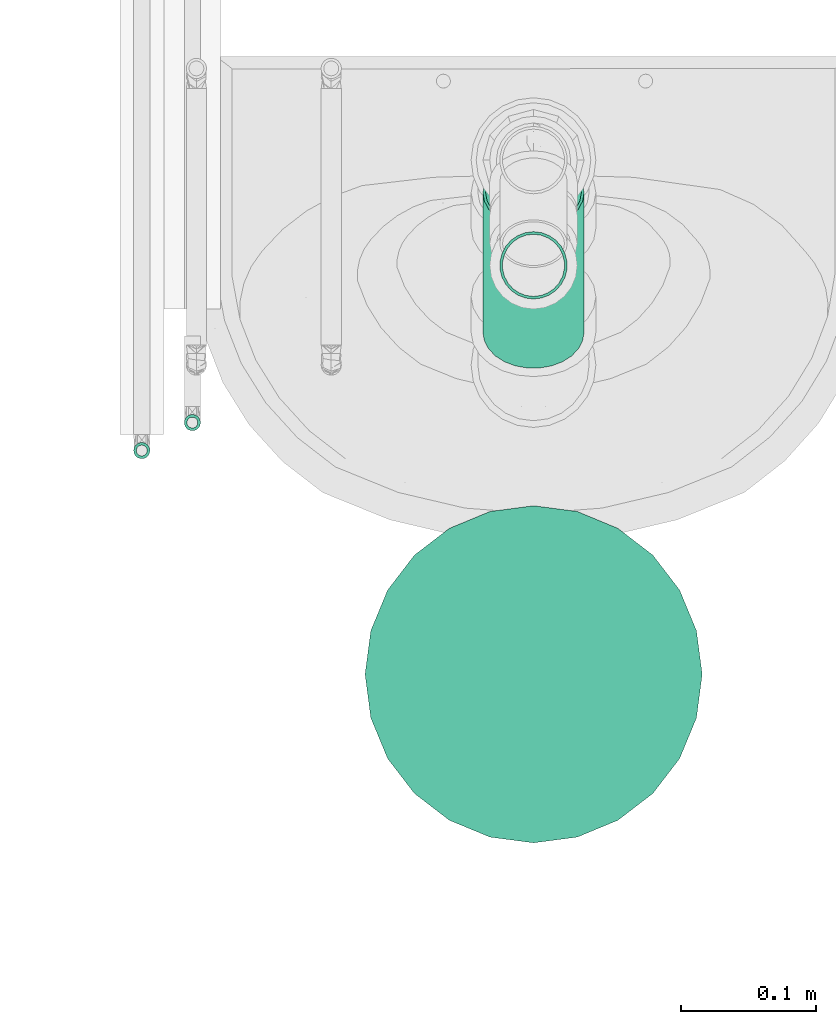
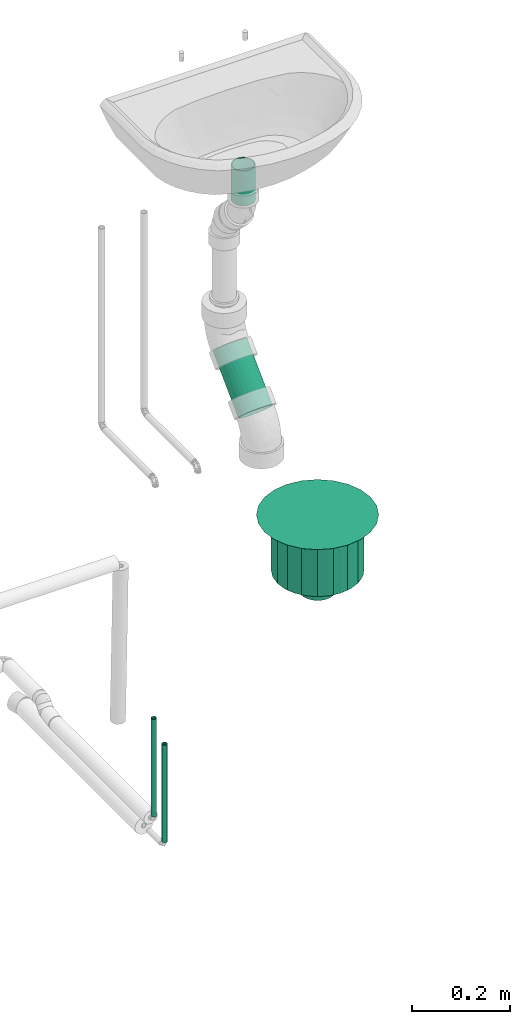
# One storey, part 54 of 108: 4 flow segments, 1 flow terminal.
"""IFC2X3 building model written with IfcOpenShell, lengths in millimetres."""

import ifcopenshell
import ifcopenshell.guid

model = None  # the IFC model being written
_history = None  # IfcOwnerHistory: only IFC2X3 demands one
_inside = {}  # id of a spatial element -> (the spatial element, [elements in it])
_under = {}  # id of a project, library or spatial element -> (it, [spatial elements below it])
_declared = {}  # id of a project -> (the project, [libraries it declares])
_typed = {}  # id of a type object -> (the type object, [elements of that type])
_made_of = {}  # id of a material, layer set ... -> (it, [elements and type objects made of it])


def new_model(schema):
    """Start an empty IFC model of exactly this schema.

    Asked for "IFC4X3", IfcOpenShell would pick the latest addendum, in which some entities
    have other attributes; the version numbers below select the first issue.
    IFC2X3 requires an IfcOwnerHistory on every rooted entity: one is made here for all.
    """
    global model, _history
    if schema == "IFC4X3":
        model = ifcopenshell.file(schema_version=(4, 3, 0, 0))
    else:
        model = ifcopenshell.file(schema=schema)
    _inside.clear()
    _under.clear()
    _declared.clear()
    _typed.clear()
    _made_of.clear()
    _history = None
    if model.schema == "IFC2X3":
        org = make("IfcOrganization", Name="unknown")
        user = make(
            "IfcPersonAndOrganization",
            ThePerson=make("IfcPerson", FamilyName="unknown"),
            TheOrganization=org,
        )
        app = make(
            "IfcApplication",
            ApplicationDeveloper=org,
            Version="unknown",
            ApplicationFullName="unknown",
            ApplicationIdentifier="unknown",
        )
        _history = make(
            "IfcOwnerHistory",
            OwningUser=user,
            OwningApplication=app,
            ChangeAction="ADDED",
            CreationDate=0,
        )
    return model


def make(cls, **values):
    """One entity of the class cls with the attributes given. An attribute that is None is left unset."""
    return model.create_entity(
        cls, **{name: value for name, value in values.items() if value is not None}
    )


def entity(cls, *values):
    """Any entity or typed value of the class cls, its attributes in the order of the schema. None: left unset."""
    e = model.create_entity(cls)
    for i, value in enumerate(values):
        if value is not None:
            e[i] = value
    return e


def rooted(cls, **values):
    """An entity with a GlobalId (a new one), such as an element, a storey or a relation."""
    return make(cls, GlobalId=ifcopenshell.guid.new(), OwnerHistory=_history, **values)


def si_unit(unit_type, name, prefix=None):
    """IfcSIUnit, for example si_unit("LENGTHUNIT", "METRE", prefix="MILLI")."""
    return make("IfcSIUnit", UnitType=unit_type, Prefix=prefix, Name=name)


def converted_unit(unit_type, name, factor, base, dimensions=None, offset=None):
    """IfcConversionBasedUnit, such as the inch: factor (a typed value) times the base unit."""
    return make(
        "IfcConversionBasedUnit"
        if offset is None
        else "IfcConversionBasedUnitWithOffset",
        ConversionOffset=offset,
        Dimensions=None
        if dimensions is None
        else entity("IfcDimensionalExponents", *dimensions),
        UnitType=unit_type,
        Name=name,
        ConversionFactor=make(
            "IfcMeasureWithUnit", ValueComponent=factor, UnitComponent=base
        ),
    )


def derived_unit(unit_type, elements):
    """IfcDerivedUnit: a product of units, each with its exponent."""
    return make(
        "IfcDerivedUnit",
        Elements=[
            make("IfcDerivedUnitElement", Unit=unit, Exponent=power)
            for unit, power in elements
        ],
        UnitType=unit_type,
    )


def assignment(units):
    """IfcUnitAssignment: the units of a project."""
    return None if units is None else make("IfcUnitAssignment", Units=units)


def point(xyz):
    """IfcCartesianPoint."""
    return None if xyz is None else make("IfcCartesianPoint", Coordinates=xyz)


def direction(xyz):
    """IfcDirection."""
    return None if xyz is None else make("IfcDirection", DirectionRatios=xyz)


def frame(location, z_axis=None, x_axis=None):
    """IfcAxis2Placement3D, a coordinate frame: its origin and axes. An axis left out is left unset."""
    return make(
        "IfcAxis2Placement3D",
        Location=point(location),
        Axis=direction(z_axis),
        RefDirection=direction(x_axis),
    )


def frame_2d(location, x_axis=None):
    """IfcAxis2Placement2D, a coordinate frame in the plane: its origin and x axis."""
    return make(
        "IfcAxis2Placement2D", Location=point(location), RefDirection=direction(x_axis)
    )


def origin_with_axes():
    """The frame at (0, 0, 0) with the z axis (0, 0, 1) and the x axis (1, 0, 0) written out."""
    return frame((0.0, 0.0, 0.0), z_axis=(0.0, 0.0, 1.0), x_axis=(1.0, 0.0, 0.0))


def origin_2d_with_axis():
    """The frame at (0, 0) in the plane with the x axis (1, 0) written out."""
    return frame_2d((0.0, 0.0), x_axis=(1.0, 0.0))


def place(relative_to, where):
    """IfcLocalPlacement: puts the frame where relative to a parent placement (None: the world)."""
    return make(
        "IfcLocalPlacement", PlacementRelTo=relative_to, RelativePlacement=where
    )


def context(
    kind, dimensions, precision=None, world=None, true_north=None, identifier=None
):
    """IfcGeometricRepresentationContext, for example the 3D "Model" context."""
    return make(
        "IfcGeometricRepresentationContext",
        ContextIdentifier=identifier,
        ContextType=kind,
        CoordinateSpaceDimension=dimensions,
        Precision=precision,
        WorldCoordinateSystem=world,
        TrueNorth=true_north,
    )


def subcontext(parent, identifier, kind, view, scale=None):
    """IfcGeometricRepresentationSubContext, for example "Body" below "Model"."""
    return make(
        "IfcGeometricRepresentationSubContext",
        ContextIdentifier=identifier,
        ContextType=kind,
        ParentContext=parent,
        TargetScale=scale,
        TargetView=view,
    )


def project(units=None, contexts=None):
    """IfcProject with its units and contexts."""
    return rooted(
        "IfcProject",
        Name="project",
        RepresentationContexts=contexts,
        UnitsInContext=assignment(units),
    )


def spatial(cls, under=None, at=None, **own):
    """A site, building, storey or space (cls), placed at a placement, below another one or the project."""
    s = rooted(cls, ObjectPlacement=at, **own)
    if under is not None:
        _under.setdefault(under.id(), (under, []))[1].append(s)
    return s


def profile(cls, at=None, kind="AREA", **sizes):
    """A parametric profile (cls). Its sizes go by their IFC names, for example OverallWidth=200.0."""
    return make(cls, ProfileType=kind, Position=at, **sizes)


def hollow_circle(**sizes):
    """IfcCircleHollowProfileDef."""
    return profile("IfcCircleHollowProfileDef", **sizes)


def extrude(swept, where, along, depth):
    """IfcExtrudedAreaSolid: the profile swept, set in the frame where, extruded along a direction by depth."""
    return make(
        "IfcExtrudedAreaSolid",
        SweptArea=swept,
        Position=where,
        ExtrudedDirection=direction(along),
        Depth=depth,
    )


def faces_of(points, faces, orient=None, outer=None):
    """IfcFace entities. A face is a list of loops; a loop is a list of indices into points, from 0.

    orient and outer hold one flag for each loop. By default every Orientation is true, the
    first loop of a face is its IfcFaceOuterBound and the others are IfcFaceBound.
    """
    made = []
    for i, loops in enumerate(faces):
        bounds = []
        for j, loop in enumerate(loops):
            is_outer = j == 0 if outer is None else outer[i][j]
            bounds.append(
                make(
                    "IfcFaceOuterBound" if is_outer else "IfcFaceBound",
                    Bound=make("IfcPolyLoop", Polygon=[points[k] for k in loop]),
                    Orientation=True if orient is None else orient[i][j],
                )
            )
        made.append(make("IfcFace", Bounds=bounds))
    return made


def open_shell(faces, orient=None, outer=None):
    """The faces of one IfcOpenShell. surface_model builds it on its shared points."""
    return ("IfcOpenShell", faces, orient, outer)


def surface_model(cls, points, shells):
    """IfcFaceBasedSurfaceModel or IfcShellBasedSurfaceModel (cls): surfaces that need not close."""
    shared = [point(p) for p in points]
    made = [make(c, CfsFaces=faces_of(shared, fs, o, b)) for c, fs, o, b in shells]
    if cls == "IfcFaceBasedSurfaceModel":
        return make(cls, FbsmFaces=made)
    return make(cls, SbsmBoundary=made)


def shape(context_of_items, identifier, shape_type, items):
    """IfcShapeRepresentation: the items that make up one representation, for example the "Body"."""
    return make(
        "IfcShapeRepresentation",
        ContextOfItems=context_of_items,
        RepresentationIdentifier=identifier,
        RepresentationType=shape_type,
        Items=items,
    )


def source(mapping_origin, context_of_items, identifier, shape_type, items):
    """IfcRepresentationMap: a shape defined once, which mapped items show again and again."""
    return make(
        "IfcRepresentationMap",
        MappingOrigin=mapping_origin,
        MappedRepresentation=shape(context_of_items, identifier, shape_type, items),
    )


def transform(
    local_origin,
    x_axis=None,
    y_axis=None,
    z_axis=None,
    scale=None,
    scale2=None,
    scale3=None,
    uniform=True,
):
    """IfcCartesianTransformationOperator3D, or its non-uniform kind. x_axis, y_axis, z_axis: its Axis1, 2, 3."""
    if uniform:
        return make(
            "IfcCartesianTransformationOperator3D",
            Axis1=direction(x_axis),
            Axis2=direction(y_axis),
            LocalOrigin=point(local_origin),
            Scale=scale,
            Axis3=direction(z_axis),
        )
    return make(
        "IfcCartesianTransformationOperator3DnonUniform",
        Axis1=direction(x_axis),
        Axis2=direction(y_axis),
        LocalOrigin=point(local_origin),
        Scale=scale,
        Axis3=direction(z_axis),
        Scale2=scale2,
        Scale3=scale3,
    )


def mapped(mapping_source, mapping_target):
    """IfcMappedItem: shows the shape of a source again, moved by a transform."""
    return make(
        "IfcMappedItem", MappingSource=mapping_source, MappingTarget=mapping_target
    )


def made_of(thing, what):
    """Note that an element or type object is made of a material, layer set ...; save() writes the relation."""
    if what is not None:
        _made_of.setdefault(what.id(), (what, []))[1].append(thing)
    return thing


def type_object(cls, material=None, **own):
    """A type object (cls), such as IfcWallType, which elements share."""
    return made_of(rooted(cls, **own), material)


def element(
    cls,
    number,
    at=None,
    inside=None,
    cuts=None,
    type_object=None,
    material=None,
    context=None,
    identifier="Body",
    shape_type=None,
    held_by="IfcProductDefinitionShape",
    body=None,
    shapes=None,
    **own,
):
    """One element of the class cls, such as IfcWall. Its Tag is "e" and its number.

    at: its placement. inside: the storey or other place that contains it. cuts: it is an
    opening in that element (IfcRelVoidsElement). A single representation is given by context,
    identifier, shape_type and body (its items); several are given by shapes. held_by: the class
    of the entity that holds the representations. save() writes the other relations.
    """
    e = rooted(cls, Tag="e%d" % number, ObjectPlacement=at, **own)
    if body is not None:
        shapes = [shape(context, identifier, shape_type, body)]
    if shapes is not None:
        e.Representation = make(held_by, Representations=shapes)
    if inside is not None:
        _inside.setdefault(inside.id(), (inside, []))[1].append(e)
    if cuts is not None:
        rooted(
            "IfcRelVoidsElement", RelatingBuildingElement=cuts, RelatedOpeningElement=e
        )
    if type_object is not None:
        _typed.setdefault(type_object.id(), (type_object, []))[1].append(e)
    return made_of(e, material)


def aggregate(whole, parts):
    """IfcRelAggregates: a whole, such as a stair, and the parts it consists of."""
    return rooted("IfcRelAggregates", RelatingObject=whole, RelatedObjects=parts)


def save(model, path):
    """Write the relations noted so far, then the file.

    IfcRelAggregates (storeys below a building ...), IfcRelContainedInSpatialStructure (elements
    in a storey), IfcRelDefinesByType, IfcRelAssociatesMaterial and IfcRelDeclares: one each for
    every whole, place, type object, material and project.
    """
    for whole, parts in _under.values():
        aggregate(whole, parts)
    for where, things in _inside.values():
        rooted(
            "IfcRelContainedInSpatialStructure",
            RelatedElements=things,
            RelatingStructure=where,
        )
    for kind, things in _typed.values():
        rooted("IfcRelDefinesByType", RelatedObjects=things, RelatingType=kind)
    for what, things in _made_of.values():
        rooted("IfcRelAssociatesMaterial", RelatedObjects=things, RelatingMaterial=what)
    for by, libraries in _declared.values():
        rooted("IfcRelDeclares", RelatingContext=by, RelatedDefinitions=libraries)
    model.write(path)


model = new_model("IFC2X3")

# Units and contexts
model_context = context("Model", 3, precision=0.01, world=frame((0.0, 4.29681676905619e-09, 0.0)), true_north=direction((4.01073788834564e-13, 1.0)))
plan_context = context("Plan", 3, precision=0.01, world=frame((0.0, 4.29681676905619e-09, 0.0)), true_north=direction((4.01073788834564e-13, 1.0)))
body_context = subcontext(model_context, "Body", "Model", "MODEL_VIEW")
ifc_project = project(units=[converted_unit("PLANEANGLEUNIT", "DEGREE", entity("IfcPositiveLengthMeasure", 0.0174532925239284), si_unit("PLANEANGLEUNIT", "RADIAN"), dimensions=[0, 0, 0, 0, 0, 0, 0]), si_unit("AREAUNIT", "SQUARE_METRE"), si_unit("LENGTHUNIT", "METRE", prefix="MILLI"), si_unit("MASSUNIT", "GRAM", prefix="KILO"), si_unit("POWERUNIT", "WATT"), si_unit("PRESSUREUNIT", "PASCAL", prefix="KILO"), si_unit("FORCEUNIT", "NEWTON", prefix="KILO"), si_unit("ELECTRICVOLTAGEUNIT", "VOLT"), si_unit("ELECTRICCURRENTUNIT", "AMPERE"), si_unit("THERMODYNAMICTEMPERATUREUNIT", "DEGREE_CELSIUS"), si_unit("TIMEUNIT", "SECOND"), si_unit("VOLUMEUNIT", "CUBIC_METRE"), derived_unit("LINEARVELOCITYUNIT", [(si_unit("LENGTHUNIT", "METRE"), 1), (si_unit("TIMEUNIT", "SECOND"), -1)]), derived_unit("VOLUMETRICFLOWRATEUNIT", [(si_unit("VOLUMEUNIT", "CUBIC_METRE"), 1), (si_unit("TIMEUNIT", "SECOND"), -1)]), derived_unit("THERMALTRANSMITTANCEUNIT", [(si_unit("POWERUNIT", "WATT"), 1), (si_unit("THERMODYNAMICTEMPERATUREUNIT", "KELVIN"), -1), (si_unit("AREAUNIT", "SQUARE_METRE"), -1)]), derived_unit("SOUNDPRESSUREUNIT", [(si_unit("PRESSUREUNIT", "PASCAL"), 1)])], contexts=[model_context, plan_context])

# Site, building, storey
site_placement = place(None, frame((0.0, -4.29681676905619e-09, 0.0), z_axis=(0.0, 0.0, 1.0), x_axis=(1.0, 0.0, 0.0)))
site = spatial("IfcSite", under=ifc_project, at=site_placement, CompositionType="ELEMENT")
building_placement = place(site_placement, frame((0.0, 4.29681676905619e-09, 0.0), z_axis=(0.0, 0.0, 1.0), x_axis=(1.0, 0.0, 0.0)))
building = spatial("IfcBuilding", under=site, at=building_placement, Name="mc-building", CompositionType="ELEMENT")
storey_placement = place(building_placement, frame((0.0, 0.0, 210200.0), z_axis=(0.0, 0.0, 1.0), x_axis=(1.0, 0.0, 0.0)))
storey = spatial("IfcBuildingStorey", under=building, at=storey_placement, Name="Nivå F - 0,7 m", CompositionType="ELEMENT", Elevation=210200.0)

# Flow segments
pipe_segment_type_1 = type_object("IfcPipeSegmentType", Name="PP avløpsrør", PredefinedType="RIGIDSEGMENT")
shared_shape_1 = source(origin_with_axes(), body_context, "Body", "SweptSolid", [
    extrude(hollow_circle(Radius=37.5, WallThickness=2.0, at=origin_2d_with_axis()), frame((0.0, 0.0, 0.0), z_axis=(1.0, 0.0, 0.0), x_axis=(0.0, 1.0, 0.0)), (0.0, 0.0, 1.0), 146.7),
])
flow_segment_1_placement = place(storey_placement, frame((339409.94567, 460576.32928, 112.961440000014), z_axis=(0.0, -0.707106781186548, 0.707106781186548), x_axis=(0.0, 0.707106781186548, 0.707106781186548)))
element("IfcFlowSegment", 1, at=flow_segment_1_placement, inside=storey, type_object=pipe_segment_type_1, Name="PP avløpsrør", context=body_context, shape_type="MappedRepresentation", body=[
    mapped(shared_shape_1, transform((0.0, 0.0, 0.0), scale=1.0)),
])
shared_shape_2 = source(origin_with_axes(), body_context, "Body", "SweptSolid", [
    extrude(hollow_circle(Radius=25.0, WallThickness=2.0, at=origin_2d_with_axis()), frame((0.0, 0.0, 0.0), z_axis=(1.0, 0.0, 0.0), x_axis=(0.0, 1.0, 0.0)), (0.0, 0.0, 1.0), 87.2),
])
flow_segment_2_placement = place(storey_placement, frame((339409.94567, 460626.14311, 700.0), z_axis=(1.0, 0.0, 0.0), x_axis=(0.0, 0.0, -1.0)))
element("IfcFlowSegment", 2, at=flow_segment_2_placement, inside=storey, type_object=pipe_segment_type_1, Name="PP avløpsrør", context=body_context, shape_type="MappedRepresentation", body=[
    mapped(shared_shape_2, transform((0.0, 0.0, 0.0), scale=1.0)),
])
pipe_segment_type_2 = type_object("IfcPipeSegmentType", Name="Kobberrør", PredefinedType="RIGIDSEGMENT")
shared_shape_3 = source(origin_with_axes(), body_context, "Body", "SweptSolid", [
    extrude(hollow_circle(Radius=6.0, WallThickness=2.0, at=origin_2d_with_axis()), frame((0.0, 0.0, 0.0), z_axis=(1.0, 0.0, 0.0), x_axis=(0.0, 1.0, 0.0)), (0.0, 0.0, 1.0), 243.2),
])
for number, where, z_axis, x_axis in (
    (3, (339119.44674, 460488.75941, -495.573130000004), (0.0, 1.0, 0.0), (0.0, 0.0, -1.0)),
    (4, (339156.94674, 460509.50941, -828.773129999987), (0.0, 1.0, 0.0), (0.0, 0.0, 1.0)),
):
    element("IfcFlowSegment", number, at=place(storey_placement, frame(where, z_axis=z_axis, x_axis=x_axis)), inside=storey, type_object=pipe_segment_type_2, Name="Kobberrør", context=body_context, shape_type="MappedRepresentation", body=[
        mapped(shared_shape_3, transform((0.0, 0.0, 0.0), scale=1.0)),
    ])

# Flow terminal
waste_terminal_type = type_object("IfcWasteTerminalType", Name="B21", PredefinedType="NOTDEFINED")
shared_shape_4 = source(origin_with_axes(), body_context, "Body", "SurfaceModel", [
    surface_model("IfcShellBasedSurfaceModel", [(24.58781, -91.76295, 0.1), (47.5, -82.27241, 0.1), (67.17514, -67.17514, 0.1), (-91.76295, -24.58781, 0.1), (82.27241, -47.5, 0.1), (91.76295, -24.58781, 0.1), (95.0, 0.0, 0.1), (0.0, -95.0, 0.1), (-47.5, -82.27241, 0.1), (-24.58781, -91.76295, 0.1), (-67.17514, -67.17514, 0.1), (-82.27241, -47.5, 0.1), (-91.76295, 24.58781, 0.1), (91.76295, 24.58781, 0.1), (82.27241, 47.5, 0.1), (67.17514, 67.17514, 0.1), (47.5, 82.27241, 0.1), (24.58781, 91.76295, 0.1), (0.0, 95.0, 0.1), (-67.17514, 67.17514, 0.1), (-82.27241, 47.5, 0.1), (-95.0, 0.0, 0.1), (-24.58781, 91.76295, 0.1), (-47.5, 82.27241, 0.1), (0.0, 95.0, -0.1), (24.58781, 91.76295, -0.1), (47.5, 82.27241, -0.1), (67.17514, 67.17514, -0.1), (82.27241, 47.5, -0.1), (91.76295, 24.58781, -0.1), (-24.58781, 91.76295, -0.1), (-67.17514, 67.17514, -0.1), (-47.5, 82.27241, -0.1), (-91.76295, 24.58781, -0.1), (-82.27241, 47.5, -0.1), (95.0, 0.0, -0.1), (67.17514, -67.17514, -0.1), (-95.0, 0.0, -0.1), (91.76295, -24.58781, -0.1), (82.27241, -47.5, -0.1), (47.5, -82.27241, -0.1), (24.58781, -91.76295, -0.1), (0.0, -95.0, -0.1), (-82.27241, -47.5, -0.1), (-91.76295, -24.58781, -0.1), (-67.17514, -67.17514, -0.1), (-47.5, -82.27241, -0.1), (-24.58781, -91.76295, -0.1), (-62.5, 108.25318, 0.1), (-88.38835, 88.38835, 0.1), (-32.35238, 120.74073, 0.1), (0.0, 125.0, 0.1), (-108.25318, 62.5, 0.1), (-120.74073, 32.35238, 0.1), (-125.0, 0.0, 0.1), (32.35238, 120.74073, 0.1), (88.38835, 88.38835, 0.1), (62.5, 108.25318, 0.1), (108.25318, 62.5, 0.1), (120.74073, 32.35238, 0.1), (125.0, 0.0, 0.1), (-120.74073, -32.35238, 0.1), (-108.25318, -62.5, 0.1), (-88.38835, -88.38835, 0.1), (-62.5, -108.25318, 0.1), (-32.35238, -120.74073, 0.1), (0.0, -125.0, 0.1), (108.25318, -62.5, 0.1), (88.38835, -88.38835, 0.1), (120.74073, -32.35238, 0.1), (32.35238, -120.74073, 0.1), (62.5, -108.25318, 0.1), (-62.5, -108.25318, -0.1), (-88.38835, -88.38835, -0.1), (-32.35238, -120.74073, -0.1), (0.0, -125.0, -0.1), (-108.25318, -62.5, -0.1), (-120.74073, -32.35238, -0.1), (-125.0, 0.0, -0.1), (32.35238, -120.74073, -0.1), (88.38835, -88.38835, -0.1), (62.5, -108.25318, -0.1), (108.25318, -62.5, -0.1), (120.74073, -32.35238, -0.1), (125.0, 0.0, -0.1), (-120.74073, 32.35238, -0.1), (-108.25318, 62.5, -0.1), (-88.38835, 88.38835, -0.1), (-62.5, 108.25318, -0.1), (-32.35238, 120.74073, -0.1), (0.0, 125.0, -0.1), (108.25318, 62.5, -0.1), (88.38835, 88.38835, -0.1), (120.74073, 32.35238, -0.1), (32.35238, 120.74073, -0.1), (62.5, 108.25318, -0.1), (24.58781, -91.76295, -137.9), (47.5, -82.27241, -137.9), (67.17514, -67.17514, -137.9), (-91.76295, -24.58781, -137.9), (82.27241, -47.5, -137.9), (91.76295, -24.58781, -137.9), (95.0, 0.0, -137.9), (0.0, -95.0, -137.9), (-47.5, -82.27241, -137.9), (-24.58781, -91.76295, -137.9), (-67.17514, -67.17514, -137.9), (-82.27241, -47.5, -137.9), (-91.76295, 24.58781, -137.9), (91.76295, 24.58781, -137.9), (82.27241, 47.5, -137.9), (67.17514, 67.17514, -137.9), (47.5, 82.27241, -137.9), (24.58781, 91.76295, -137.9), (0.0, 95.0, -137.9), (-67.17514, 67.17514, -137.9), (-82.27241, 47.5, -137.9), (-95.0, 0.0, -137.9), (-24.58781, 91.76295, -137.9), (-47.5, 82.27241, -137.9), (0.0, 95.0, -138.1), (24.58781, 91.76295, -138.1), (47.5, 82.27241, -138.1), (67.17514, 67.17514, -138.1), (82.27241, 47.5, -138.1), (91.76295, 24.58781, -138.1), (-24.58781, 91.76295, -138.1), (-67.17514, 67.17514, -138.1), (-47.5, 82.27241, -138.1), (-91.76295, 24.58781, -138.1), (-82.27241, 47.5, -138.1), (95.0, 0.0, -138.1), (67.17514, -67.17514, -138.1), (-95.0, 0.0, -138.1), (91.76295, -24.58781, -138.1), (82.27241, -47.5, -138.1), (47.5, -82.27241, -138.1), (24.58781, -91.76295, -138.1), (0.0, -95.0, -138.1), (-82.27241, -47.5, -138.1), (-91.76295, -24.58781, -138.1), (-67.17514, -67.17514, -138.1), (-47.5, -82.27241, -138.1), (-24.58781, -91.76295, -138.1), (-85.74428, -38.60004, 0.0), (-90.0094, -28.30311, 0.0), (-89.2708, -32.49191, 0.0), (-43.22826, 83.8272, 0.0), (-47.5, 82.27241, 0.0), (-47.4, 82.0992, 0.0), (-50.98236, 79.35037, 0.0), (-94.21061, 4.47683, 0.0), (-95.0, 0.0, 0.0), (-94.8, 0.0, 0.0), (-82.0992, -47.4, 0.0), (-76.30075, -54.9567, 0.0), (43.22826, 83.8272, 0.0), (47.4, 82.0992, 0.0), (47.5, 82.27241, 0.0), (50.98236, 79.35037, 0.0), (-20.49348, 92.10198, 0.0), (-9.44352, 93.55673, 0.0), (-16.49658, 93.55673, 0.0), (72.77422, 61.06482, 0.0), (69.51591, 63.79887, 0.0), (76.30075, 54.9567, 0.0), (82.0992, -47.4, 0.0), (85.74428, -38.60004, 0.0), (76.30075, -54.9567, 0.0), (94.21061, 4.47683, 0.0), (94.8, 0.0, 0.0), (95.0, 0.0, 0.0), (91.56976, -24.53605, 0.0), (94.21061, -4.47683, 0.0), (90.0094, -28.30311, 0.0), (-91.56976, -24.53605, 0.0), (-94.21061, -4.47683, 0.0), (-24.53605, -91.56976, 0.0), (-20.49348, -92.10198, 0.0), (-43.22826, -83.8272, 0.0), (-47.5, -82.27241, 0.0), (-47.4, -82.0992, 0.0), (-50.98236, -79.35037, 0.0), (9.44352, -93.55673, 0.0), (16.49658, -93.55673, 0.0), (20.49348, -92.10198, 0.0), (0.0, -94.8, 0.0), (-9.44352, -93.55673, 0.0), (-16.49658, -93.55673, 0.0), (-90.0094, 28.30311, 0.0), (-85.74428, 38.60004, 0.0), (-89.2708, 32.49191, 0.0), (67.03372, -67.03372, 0.0), (69.51591, -63.79887, 0.0), (50.98236, -79.35037, 0.0), (47.4, -82.0992, 0.0), (47.5, -82.27241, 0.0), (43.22826, -83.8272, 0.0), (24.53605, -91.56976, 0.0), (89.2708, -32.49191, 0.0), (-72.77422, -61.06482, 0.0), (-69.51591, -63.79887, 0.0), (-67.03372, -67.03372, 0.0), (72.77422, -61.06482, 0.0), (-91.56976, 24.53605, 0.0), (-82.0992, 47.4, 0.0), (-76.30075, 54.9567, 0.0), (-69.51591, 63.79887, 0.0), (-72.77422, 61.06482, 0.0), (-67.03372, 67.03372, 0.0), (-24.53605, 91.56976, 0.0), (0.0, 94.8, 0.0), (9.44352, 93.55673, 0.0), (20.49348, 92.10198, 0.0), (16.49658, 93.55673, 0.0), (24.53605, 91.56976, 0.0), (67.03372, 67.03372, 0.0), (82.0992, 47.4, 0.0), (85.74428, 38.60004, 0.0), (90.0094, 28.30311, 0.0), (89.2708, 32.49191, 0.0), (91.56976, 24.53605, 0.0), (85.74428, -38.60004, -138.0), (90.0094, -28.30311, -138.0), (89.2708, -32.49191, -138.0), (43.22826, 83.8272, -138.0), (47.5, 82.27241, -138.0), (47.4, 82.0992, -138.0), (89.2708, 32.49191, -138.0), (90.0094, 28.30311, -138.0), (85.74428, 38.60004, -138.0), (94.21061, 4.47683, -138.0), (95.0, 0.0, -138.0), (94.8, 0.0, -138.0), (50.98236, 79.35037, -138.0), (82.0992, -47.4, -138.0), (76.30075, -54.9567, -138.0), (-43.22826, 83.8272, -138.0), (-47.4, 82.0992, -138.0), (-47.5, 82.27241, -138.0), (-50.98236, 79.35037, -138.0), (9.44352, 93.55673, -138.0), (16.49658, 93.55673, -138.0), (20.49348, 92.10198, -138.0), (-69.51591, 63.79887, -138.0), (-76.30075, 54.9567, -138.0), (-72.77422, 61.06482, -138.0), (-82.0992, -47.4, -138.0), (-85.74428, -38.60004, -138.0), (-76.30075, -54.9567, -138.0), (-94.8, 0.0, -138.0), (-95.0, 0.0, -138.0), (-94.21061, 4.47683, -138.0), (-91.56976, -24.53605, -138.0), (-94.21061, -4.47683, -138.0), (-90.0094, -28.30311, -138.0), (91.56976, -24.53605, -138.0), (94.21061, -4.47683, -138.0), (-20.49348, -92.10198, -138.0), (-9.44352, -93.55673, -138.0), (-16.49658, -93.55673, -138.0), (24.53605, -91.56976, -138.0), (20.49348, -92.10198, -138.0), (43.22826, -83.8272, -138.0), (47.5, -82.27241, -138.0), (47.4, -82.0992, -138.0), (50.98236, -79.35037, -138.0), (72.77422, -61.06482, -138.0), (69.51591, -63.79887, -138.0), (0.0, -94.8, -138.0), (9.44352, -93.55673, -138.0), (16.49658, -93.55673, -138.0), (-67.03372, -67.03372, -138.0), (-69.51591, -63.79887, -138.0), (-50.98236, -79.35037, -138.0), (-47.4, -82.0992, -138.0), (-47.5, -82.27241, -138.0), (-89.2708, -32.49191, -138.0), (-43.22826, -83.8272, -138.0), (-24.53605, -91.56976, -138.0), (67.03372, -67.03372, -138.0), (-72.77422, -61.06482, -138.0), (91.56976, 24.53605, -138.0), (82.0992, 47.4, -138.0), (76.30075, 54.9567, -138.0), (69.51591, 63.79887, -138.0), (72.77422, 61.06482, -138.0), (67.03372, 67.03372, -138.0), (24.53605, 91.56976, -138.0), (0.0, 94.8, -138.0), (-9.44352, 93.55673, -138.0), (-20.49348, 92.10198, -138.0), (-16.49658, 93.55673, -138.0), (-24.53605, 91.56976, -138.0), (-67.03372, 67.03372, -138.0), (-82.0992, 47.4, -138.0), (-85.74428, 38.60004, -138.0), (-90.0094, 28.30311, -138.0), (-89.2708, 32.49191, -138.0), (-91.56976, 24.53605, -138.0), (18.75, -32.47595, -138.0), (26.5165, -26.5165, -138.0), (18.65, -32.30275, -138.0), (9.65395, -36.02903, -138.0), (0.0, -37.3, -138.0), (9.70571, -36.22222, -138.0), (0.0, -37.5, -138.0), (26.37508, -26.37508, -138.0), (36.22222, -9.70571, -138.0), (37.3, 0.0, -138.0), (36.02903, -9.65395, -138.0), (37.5, 0.0, -138.0), (32.47595, -18.75, -138.0), (32.30275, -18.65, -138.0), (-9.65395, -36.02903, -138.0), (-9.70571, -36.22222, -138.0), (-18.65, -32.30275, -138.0), (-26.5165, -26.5165, -138.0), (-18.75, -32.47595, -138.0), (-26.37508, -26.37508, -138.0), (-32.30275, -18.65, -138.0), (-32.47595, -18.75, -138.0), (-36.02903, -9.65395, -138.0), (-36.22222, -9.70571, -138.0), (-37.3, 0.0, -138.0), (-37.5, 0.0, -138.0), (36.22222, 9.70571, -138.0), (36.02903, 9.65395, -138.0), (32.30275, 18.65, -138.0), (32.47595, 18.75, -138.0), (26.37508, 26.37508, -138.0), (26.5165, 26.5165, -138.0), (18.75, 32.47595, -138.0), (18.65, 32.30275, -138.0), (9.65395, 36.02903, -138.0), (9.70571, 36.22222, -138.0), (0.0, 37.3, -138.0), (0.0, 37.5, -138.0), (-32.47595, 18.75, -138.0), (-32.30275, 18.65, -138.0), (-26.5165, 26.5165, -138.0), (-26.37508, 26.37508, -138.0), (-36.22222, 9.70571, -138.0), (-36.02903, 9.65395, -138.0), (-9.65395, 36.02903, -138.0), (-9.70571, 36.22222, -138.0), (-18.65, 32.30275, -138.0), (-18.75, 32.47595, -138.0), (18.75, 32.47595, -188.0), (26.5165, 26.5165, -188.0), (18.65, 32.30275, -188.0), (9.65395, 36.02903, -188.0), (0.0, 37.3, -188.0), (9.70571, 36.22222, -188.0), (0.0, 37.5, -188.0), (26.37508, 26.37508, -188.0), (36.22222, 9.70571, -188.0), (37.3, 0.0, -188.0), (36.02903, 9.65395, -188.0), (37.5, 0.0, -188.0), (32.47595, 18.75, -188.0), (32.30275, 18.65, -188.0), (-9.65395, 36.02903, -188.0), (-9.70571, 36.22222, -188.0), (-18.65, 32.30275, -188.0), (-26.5165, 26.5165, -188.0), (-18.75, 32.47595, -188.0), (-26.37508, 26.37508, -188.0), (-32.30275, 18.65, -188.0), (-32.47595, 18.75, -188.0), (-36.02903, 9.65395, -188.0), (-36.22222, 9.70571, -188.0), (-37.3, 0.0, -188.0), (-37.5, 0.0, -188.0), (36.22222, -9.70571, -188.0), (36.02903, -9.65395, -188.0), (32.30275, -18.65, -188.0), (32.47595, -18.75, -188.0), (26.37508, -26.37508, -188.0), (26.5165, -26.5165, -188.0), (18.75, -32.47595, -188.0), (18.65, -32.30275, -188.0), (9.65395, -36.02903, -188.0), (9.70571, -36.22222, -188.0), (0.0, -37.3, -188.0), (0.0, -37.5, -188.0), (-32.47595, -18.75, -188.0), (-32.30275, -18.65, -188.0), (-26.5165, -26.5165, -188.0), (-26.37508, -26.37508, -188.0), (-36.22222, -9.70571, -188.0), (-36.02903, -9.65395, -188.0), (-9.65395, -36.02903, -188.0), (-9.70571, -36.22222, -188.0), (-18.65, -32.30275, -188.0), (-18.75, -32.47595, -188.0)], [open_shell([[[0, 1, 2]], [[3, 0, 2]], [[4, 5, 6]], [[4, 6, 2]], [[3, 2, 6]], [[7, 8, 9]], [[8, 7, 10]], [[10, 3, 11]], [[10, 7, 0]], [[0, 3, 10]], [[6, 12, 3]], [[13, 14, 15]], [[13, 15, 16]], [[16, 17, 18]], [[13, 16, 12]], [[12, 16, 18]], [[12, 19, 20]], [[21, 3, 12]], [[19, 22, 23]], [[22, 19, 12]], [[18, 22, 12]], [[12, 6, 13]], [[24, 25, 26]], [[24, 26, 27]], [[27, 28, 29]], [[27, 29, 24]], [[24, 29, 30]], [[30, 31, 32]], [[30, 29, 31]], [[31, 33, 34]], [[31, 35, 33]], [[33, 36, 37]], [[35, 31, 29]], [[35, 38, 39]], [[35, 39, 36]], [[36, 40, 41]], [[41, 37, 36]], [[41, 42, 37]], [[37, 43, 44]], [[45, 43, 37]], [[46, 42, 47]], [[42, 46, 45]], [[42, 45, 37]], [[36, 33, 35]], [[44, 3, 37]], [[43, 11, 44]], [[8, 45, 46]], [[43, 45, 10]], [[9, 46, 47]], [[44, 11, 3]], [[3, 21, 37]], [[9, 8, 46]], [[10, 45, 8]], [[10, 11, 43]], [[7, 9, 47]], [[47, 42, 7]], [[41, 0, 42]], [[40, 1, 41]], [[4, 36, 39]], [[40, 36, 2]], [[5, 39, 38]], [[40, 2, 1]], [[1, 0, 41]], [[6, 5, 38]], [[4, 39, 5]], [[4, 2, 36]], [[35, 6, 38]], [[42, 0, 7]], [[29, 13, 35]], [[28, 14, 29]], [[16, 27, 26]], [[28, 27, 15]], [[17, 26, 25]], [[29, 14, 13]], [[13, 6, 35]], [[17, 16, 26]], [[15, 27, 16]], [[15, 14, 28]], [[18, 17, 25]], [[25, 24, 18]], [[30, 22, 24]], [[32, 23, 30]], [[32, 31, 19]], [[31, 34, 20]], [[32, 19, 23]], [[23, 22, 30]], [[33, 12, 20]], [[33, 37, 12]], [[37, 21, 12]], [[20, 19, 31]], [[20, 34, 33]], [[24, 22, 18]], [[48, 49, 23]], [[23, 49, 19]], [[48, 23, 22]], [[50, 22, 18]], [[22, 50, 48]], [[50, 18, 51]], [[12, 52, 53]], [[21, 53, 54]], [[12, 53, 21]], [[20, 19, 52]], [[12, 20, 52]], [[52, 19, 49]], [[51, 17, 55]], [[17, 51, 18]], [[55, 17, 16]], [[56, 57, 15]], [[16, 57, 55]], [[15, 57, 16]], [[14, 13, 58]], [[14, 58, 56]], [[13, 59, 58]], [[59, 13, 6]], [[59, 6, 60]], [[14, 56, 15]], [[3, 54, 61]], [[11, 61, 62]], [[11, 3, 61]], [[10, 11, 62]], [[62, 63, 10]], [[8, 63, 64]], [[63, 8, 10]], [[8, 64, 9]], [[9, 65, 7]], [[65, 9, 64]], [[7, 65, 66]], [[67, 4, 68]], [[5, 4, 69]], [[5, 69, 60]], [[69, 4, 67]], [[4, 2, 68]], [[60, 6, 5]], [[0, 66, 70]], [[66, 0, 7]], [[0, 70, 1]], [[71, 68, 2]], [[71, 1, 70]], [[71, 2, 1]], [[3, 21, 54]], [[72, 73, 46]], [[46, 73, 45]], [[72, 46, 47]], [[74, 47, 42]], [[47, 74, 72]], [[74, 42, 75]], [[44, 76, 77]], [[37, 77, 78]], [[44, 77, 37]], [[43, 45, 76]], [[44, 43, 76]], [[76, 45, 73]], [[75, 41, 79]], [[41, 75, 42]], [[79, 41, 40]], [[80, 81, 36]], [[40, 81, 79]], [[36, 81, 40]], [[39, 38, 82]], [[39, 82, 80]], [[38, 83, 82]], [[83, 38, 35]], [[83, 35, 84]], [[39, 80, 36]], [[33, 78, 85]], [[34, 85, 86]], [[34, 33, 85]], [[31, 34, 86]], [[86, 87, 31]], [[32, 87, 88]], [[87, 32, 31]], [[32, 88, 30]], [[30, 89, 24]], [[89, 30, 88]], [[24, 89, 90]], [[91, 28, 92]], [[29, 28, 93]], [[29, 93, 84]], [[93, 28, 91]], [[28, 27, 92]], [[84, 35, 29]], [[25, 90, 94]], [[90, 25, 24]], [[25, 94, 26]], [[95, 92, 27]], [[95, 26, 94]], [[95, 27, 26]], [[33, 37, 78]], [[21, 37, 12]], [[12, 33, 20]], [[23, 19, 31]], [[34, 19, 20]], [[22, 23, 32]], [[33, 34, 20]], [[12, 37, 33]], [[24, 18, 30]], [[22, 32, 30]], [[32, 23, 31]], [[19, 34, 31]], [[22, 30, 18]], [[17, 25, 16]], [[16, 26, 15]], [[13, 14, 28]], [[27, 14, 15]], [[6, 13, 29]], [[25, 26, 16]], [[17, 24, 25]], [[13, 28, 29]], [[28, 14, 27]], [[15, 26, 27]], [[6, 29, 35]], [[18, 24, 17]], [[6, 35, 5]], [[5, 38, 4]], [[1, 2, 36]], [[39, 2, 4]], [[0, 1, 40]], [[38, 39, 4]], [[5, 35, 38]], [[42, 7, 41]], [[0, 40, 41]], [[40, 1, 36]], [[2, 39, 36]], [[0, 41, 7]], [[9, 47, 8]], [[8, 46, 10]], [[37, 21, 3]], [[44, 3, 11]], [[10, 45, 11]], [[47, 46, 8]], [[9, 42, 47]], [[11, 45, 43]], [[37, 3, 44]], [[10, 46, 45]], [[43, 44, 11]], [[7, 42, 9]], [[77, 61, 78]], [[76, 62, 77]], [[64, 73, 72]], [[76, 73, 63]], [[65, 72, 74]], [[77, 62, 61]], [[61, 54, 78]], [[65, 64, 72]], [[63, 73, 64]], [[63, 62, 76]], [[66, 65, 74]], [[74, 75, 66]], [[79, 70, 75]], [[81, 71, 79]], [[67, 80, 82]], [[81, 80, 68]], [[69, 82, 83]], [[81, 68, 71]], [[71, 70, 79]], [[60, 69, 83]], [[67, 82, 69]], [[67, 68, 80]], [[84, 60, 83]], [[75, 70, 66]], [[93, 59, 84]], [[91, 58, 93]], [[57, 92, 95]], [[91, 92, 56]], [[55, 95, 94]], [[93, 58, 59]], [[59, 60, 84]], [[55, 57, 95]], [[56, 92, 57]], [[56, 58, 91]], [[51, 55, 94]], [[94, 90, 51]], [[50, 90, 89]], [[88, 48, 89]], [[52, 86, 85]], [[53, 85, 78]], [[88, 49, 48]], [[48, 50, 89]], [[87, 52, 49]], [[87, 86, 52]], [[52, 85, 53]], [[78, 54, 53]], [[87, 49, 88]], [[90, 50, 51]], [[96, 97, 98]], [[99, 96, 98]], [[100, 101, 102]], [[100, 102, 98]], [[99, 98, 102]], [[103, 104, 105]], [[104, 103, 106]], [[106, 99, 107]], [[106, 103, 96]], [[96, 99, 106]], [[102, 108, 99]], [[109, 110, 111]], [[109, 111, 112]], [[112, 113, 114]], [[109, 112, 108]], [[108, 112, 114]], [[108, 115, 116]], [[117, 99, 108]], [[115, 118, 119]], [[118, 115, 108]], [[114, 118, 108]], [[108, 102, 109]], [[120, 121, 122]], [[120, 122, 123]], [[123, 124, 125]], [[123, 125, 120]], [[120, 125, 126]], [[126, 127, 128]], [[126, 125, 127]], [[127, 129, 130]], [[127, 131, 129]], [[129, 132, 133]], [[131, 127, 125]], [[131, 134, 135]], [[131, 135, 132]], [[132, 136, 137]], [[137, 133, 132]], [[137, 138, 133]], [[133, 139, 140]], [[141, 139, 133]], [[142, 138, 143]], [[138, 142, 141]], [[138, 141, 133]], [[132, 129, 131]], [[140, 99, 133]], [[139, 107, 140]], [[104, 141, 142]], [[139, 141, 106]], [[105, 142, 143]], [[140, 107, 99]], [[99, 117, 133]], [[105, 104, 142]], [[106, 141, 104]], [[106, 107, 139]], [[103, 105, 143]], [[143, 138, 103]], [[137, 96, 138]], [[136, 97, 137]], [[100, 132, 135]], [[136, 132, 98]], [[101, 135, 134]], [[136, 98, 97]], [[97, 96, 137]], [[102, 101, 134]], [[100, 135, 101]], [[100, 98, 132]], [[131, 102, 134]], [[138, 96, 103]], [[125, 109, 131]], [[124, 110, 125]], [[112, 123, 122]], [[124, 123, 111]], [[113, 122, 121]], [[125, 110, 109]], [[109, 102, 131]], [[113, 112, 122]], [[111, 123, 112]], [[111, 110, 124]], [[114, 113, 121]], [[121, 120, 114]], [[126, 118, 120]], [[128, 119, 126]], [[128, 127, 115]], [[127, 130, 116]], [[128, 115, 119]], [[119, 118, 126]], [[129, 108, 116]], [[129, 133, 108]], [[133, 117, 108]], [[116, 115, 127]], [[116, 130, 129]], [[120, 118, 114]], [[144, 145, 146]], [[147, 148, 149]], [[149, 148, 150]], [[151, 152, 153]], [[154, 155, 144]], [[156, 157, 158]], [[157, 159, 158]], [[160, 161, 162]], [[163, 164, 165]], [[166, 167, 168]], [[169, 170, 171]], [[172, 173, 174]], [[175, 145, 176]], [[153, 152, 176]], [[177, 178, 179]], [[180, 181, 182]], [[183, 184, 185]], [[186, 183, 187]], [[187, 178, 188]], [[180, 179, 181]], [[189, 190, 191]], [[192, 193, 194]], [[171, 170, 173]], [[194, 195, 196]], [[195, 197, 196]], [[198, 197, 185]], [[199, 174, 167]], [[155, 200, 201]], [[202, 182, 201]], [[168, 193, 203]], [[204, 151, 189]], [[205, 190, 206]], [[206, 207, 208]], [[209, 207, 150]], [[210, 147, 160]], [[211, 161, 212]], [[212, 213, 214]], [[215, 213, 156]], [[216, 159, 164]], [[217, 165, 218]], [[218, 219, 220]], [[221, 219, 169]], [[222, 223, 224]], [[225, 226, 227]], [[228, 229, 230]], [[231, 232, 233]], [[226, 234, 227]], [[235, 236, 222]], [[237, 238, 239]], [[238, 240, 239]], [[241, 242, 243]], [[244, 245, 246]], [[247, 248, 249]], [[250, 251, 252]], [[253, 254, 255]], [[256, 223, 257]], [[257, 233, 232]], [[258, 259, 260]], [[261, 262, 263]], [[264, 265, 266]], [[236, 267, 268]], [[269, 259, 270]], [[263, 265, 264]], [[270, 262, 271]], [[272, 273, 274]], [[251, 250, 254]], [[274, 275, 276]], [[248, 277, 255]], [[275, 278, 276]], [[279, 278, 258]], [[280, 266, 268]], [[249, 273, 281]], [[282, 231, 229]], [[283, 230, 284]], [[284, 285, 286]], [[287, 285, 234]], [[288, 225, 243]], [[289, 241, 290]], [[290, 291, 292]], [[293, 291, 237]], [[294, 240, 244]], [[295, 245, 296]], [[296, 297, 298]], [[299, 297, 252]], [[152, 251, 277]], [[200, 281, 276]], [[277, 281, 146]], [[180, 276, 260]], [[152, 277, 146]], [[200, 146, 281]], [[276, 180, 200]], [[260, 188, 180]], [[260, 271, 188]], [[184, 271, 264]], [[203, 267, 224]], [[264, 267, 196]], [[199, 224, 232]], [[184, 264, 196]], [[203, 196, 267]], [[224, 199, 203]], [[232, 171, 199]], [[271, 184, 188]], [[171, 232, 228]], [[163, 286, 226]], [[228, 286, 220]], [[158, 226, 242]], [[171, 228, 220]], [[163, 220, 286]], [[226, 158, 163]], [[242, 214, 158]], [[242, 292, 214]], [[162, 292, 239]], [[208, 246, 298]], [[239, 246, 148]], [[191, 298, 251]], [[162, 239, 148]], [[208, 148, 246]], [[298, 191, 208]], [[251, 152, 191]], [[292, 162, 214]], [[247, 253, 175]], [[247, 154, 272]], [[279, 275, 181]], [[202, 275, 272]], [[269, 279, 177]], [[250, 153, 253]], [[153, 175, 253]], [[175, 154, 247]], [[154, 202, 272]], [[275, 202, 181]], [[181, 177, 279]], [[177, 186, 269]], [[265, 261, 198]], [[265, 195, 280]], [[256, 235, 166]], [[192, 235, 280]], [[233, 256, 172]], [[186, 198, 261]], [[198, 195, 265]], [[195, 192, 280]], [[192, 166, 235]], [[256, 166, 172]], [[172, 170, 233]], [[269, 186, 261]], [[283, 282, 221]], [[283, 217, 287]], [[288, 227, 157]], [[216, 227, 287]], [[289, 288, 215]], [[233, 170, 282]], [[170, 221, 282]], [[221, 217, 283]], [[217, 216, 287]], [[227, 216, 157]], [[157, 215, 288]], [[215, 211, 289]], [[238, 293, 210]], [[238, 149, 294]], [[299, 295, 205]], [[209, 295, 294]], [[250, 299, 204]], [[211, 210, 293]], [[210, 149, 238]], [[149, 209, 294]], [[209, 205, 295]], [[299, 205, 204]], [[204, 153, 250]], [[289, 211, 293]], [[300, 301, 302]], [[300, 302, 303]], [[304, 305, 303]], [[305, 304, 306]], [[303, 305, 300]], [[302, 301, 307]], [[308, 309, 310]], [[309, 308, 311]], [[308, 310, 312]], [[307, 312, 313]], [[312, 307, 301]], [[313, 312, 310]], [[306, 314, 315]], [[315, 314, 316]], [[317, 318, 319]], [[316, 318, 315]], [[316, 319, 318]], [[306, 304, 314]], [[320, 321, 317]], [[321, 320, 322]], [[320, 317, 319]], [[323, 322, 324]], [[322, 323, 321]], [[323, 324, 325]], [[311, 326, 327]], [[327, 326, 328]], [[328, 329, 330]], [[329, 328, 326]], [[330, 329, 331]], [[331, 332, 333]], [[333, 332, 334]], [[334, 335, 336]], [[335, 334, 332]], [[336, 335, 337]], [[333, 330, 331]], [[338, 339, 340]], [[340, 339, 341]], [[339, 338, 342]], [[325, 343, 342]], [[342, 343, 339]], [[325, 324, 343]], [[344, 337, 345]], [[344, 345, 346]], [[341, 347, 340]], [[341, 346, 347]], [[347, 346, 345]], [[336, 337, 344]], [[327, 309, 311]], [[348, 349, 350]], [[348, 350, 351]], [[352, 353, 351]], [[353, 352, 354]], [[351, 353, 348]], [[350, 349, 355]], [[356, 357, 358]], [[357, 356, 359]], [[356, 358, 360]], [[355, 360, 361]], [[360, 355, 349]], [[361, 360, 358]], [[354, 362, 363]], [[363, 362, 364]], [[365, 366, 367]], [[364, 366, 363]], [[364, 367, 366]], [[354, 352, 362]], [[368, 369, 365]], [[369, 368, 370]], [[368, 365, 367]], [[371, 370, 372]], [[370, 371, 369]], [[371, 372, 373]], [[359, 374, 375]], [[375, 374, 376]], [[376, 377, 378]], [[377, 376, 374]], [[378, 377, 379]], [[379, 380, 381]], [[381, 380, 382]], [[382, 383, 384]], [[383, 382, 380]], [[384, 383, 385]], [[381, 378, 379]], [[386, 387, 388]], [[388, 387, 389]], [[387, 386, 390]], [[373, 391, 390]], [[390, 391, 387]], [[373, 372, 391]], [[392, 385, 393]], [[392, 393, 394]], [[389, 395, 388]], [[389, 394, 395]], [[395, 394, 393]], [[384, 385, 392]], [[375, 357, 359]], [[321, 386, 388]], [[318, 395, 393]], [[388, 395, 317]], [[315, 393, 385]], [[373, 323, 325]], [[323, 373, 390]], [[323, 390, 321]], [[390, 386, 321]], [[388, 317, 321]], [[318, 317, 395]], [[393, 315, 318]], [[385, 306, 315]], [[305, 383, 380]], [[379, 300, 380]], [[312, 377, 374]], [[379, 377, 301]], [[308, 374, 359]], [[383, 305, 306]], [[380, 300, 305]], [[379, 301, 300]], [[377, 312, 301]], [[308, 312, 374]], [[359, 311, 308]], [[383, 306, 385]], [[356, 326, 359]], [[360, 329, 356]], [[353, 354, 335]], [[360, 349, 331]], [[356, 329, 326]], [[326, 311, 359]], [[332, 348, 335]], [[332, 331, 349]], [[348, 353, 335]], [[331, 329, 360]], [[349, 348, 332]], [[354, 337, 335]], [[345, 363, 366]], [[365, 347, 366]], [[338, 369, 371]], [[365, 369, 340]], [[342, 371, 373]], [[363, 345, 337]], [[366, 347, 345]], [[365, 340, 347]], [[369, 338, 340]], [[342, 338, 371]], [[373, 325, 342]], [[363, 337, 354]], [[389, 387, 320]], [[392, 394, 316]], [[319, 394, 389]], [[384, 392, 314]], [[324, 322, 372]], [[391, 372, 322]], [[320, 391, 322]], [[320, 387, 391]], [[320, 319, 389]], [[394, 319, 316]], [[316, 314, 392]], [[314, 304, 384]], [[381, 382, 303]], [[381, 302, 378]], [[375, 376, 313]], [[307, 376, 378]], [[357, 375, 310]], [[304, 303, 382]], [[303, 302, 381]], [[302, 307, 378]], [[307, 313, 376]], [[375, 313, 310]], [[310, 309, 357]], [[384, 304, 382]], [[357, 327, 358]], [[358, 328, 361]], [[334, 352, 351]], [[330, 355, 361]], [[327, 328, 358]], [[357, 309, 327]], [[334, 350, 333]], [[355, 330, 333]], [[334, 351, 350]], [[361, 328, 330]], [[333, 350, 355]], [[334, 336, 352]], [[364, 362, 344]], [[364, 346, 367]], [[370, 368, 339]], [[341, 368, 367]], [[372, 370, 343]], [[336, 344, 362]], [[344, 346, 364]], [[346, 341, 367]], [[341, 339, 368]], [[370, 339, 343]], [[343, 324, 372]], [[352, 336, 362]]])]),
])
flow_terminal_placement = place(storey_placement, frame((339410.04566, 460322.84717, 10.0), z_axis=(0.0, 0.0, 1.0), x_axis=(1.0, 0.0, 0.0)))
element("IfcFlowTerminal", 5, at=flow_terminal_placement, inside=storey, type_object=waste_terminal_type, Name="B21", context=body_context, shape_type="MappedRepresentation", body=[
    mapped(shared_shape_4, transform((0.0, 0.0, 0.0), scale=1.0)),
])

save(model, "model.ifc")
